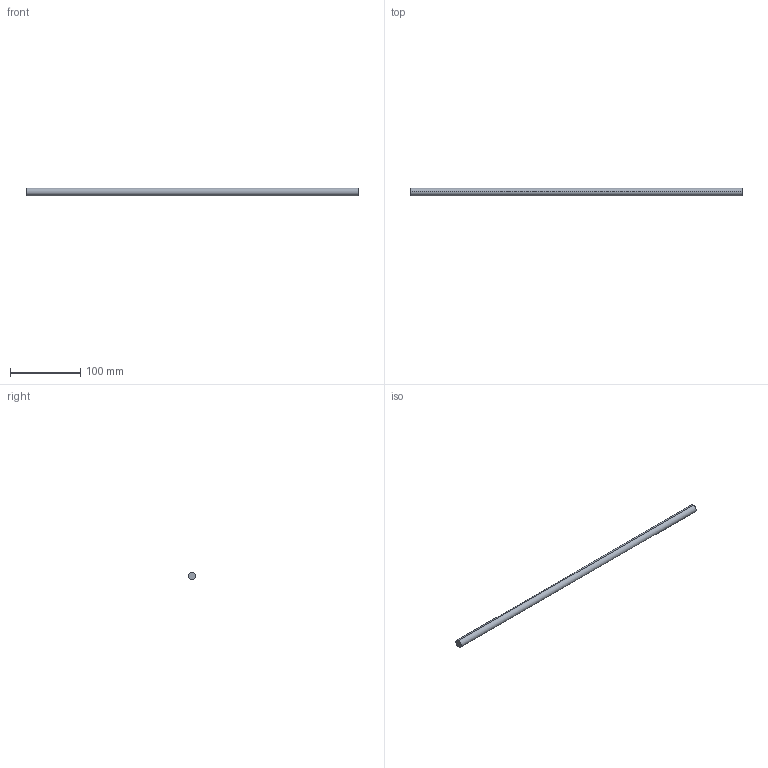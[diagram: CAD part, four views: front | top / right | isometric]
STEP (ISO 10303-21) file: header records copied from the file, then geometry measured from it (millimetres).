
FILE_DESCRIPTION (( 'STEP AP214' ), '1' );
FILE_NAME ('Querreling_2S-Rel_7102_KAB-575.step', '2010-09-22T15:05:53', ( 'grass' ), ( '' ), 'SwSTEP 2.0', 'SolidWorks 2010', '' );
FILE_SCHEMA (( 'AUTOMOTIVE_DESIGN' ));
Length unit declared in the file: millimetre
Products named in the file (1): Querreling_2S-Rel_7102_KAB-575
Bounding box: 474 x 11 x 11 mm (x, y, z)
Volume: 45045.7 mm3; surface area: 16570.3 mm2
Topology: 1 solids, 1 shells, 4 faces, 6 edges, 4 vertices
Faces by surface type: cylinder 2, plane 2
Entity records: 128 total; most frequent: DIRECTION 20, CARTESIAN_POINT 15, ORIENTED_EDGE 12, AXIS2_PLACEMENT_3D 9, EDGE_CURVE 6, VERTEX_POINT 4, EDGE_LOOP 4, FACE_OUTER_BOUND 4
